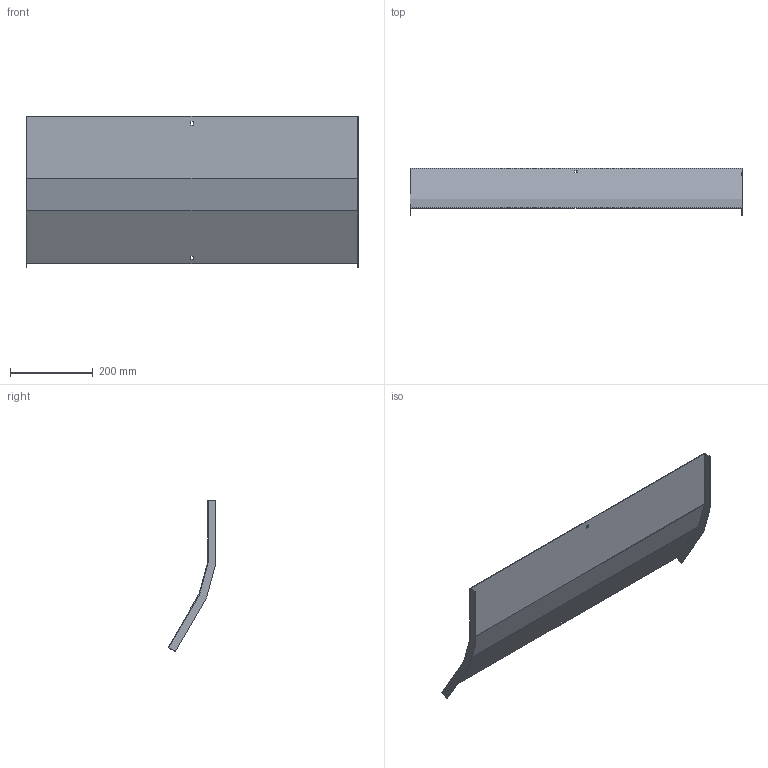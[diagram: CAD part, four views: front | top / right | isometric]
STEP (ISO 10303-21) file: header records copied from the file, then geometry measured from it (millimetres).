
FILE_DESCRIPTION (( 'STEP AP214' ), '1' );
FILE_NAME ('A2X32N3R800X.step', '2025-03-20T09:39:09', ( '' ), ( '' ), 'SwSTEP 2.0', 'SolidWorks 2023', '' );
FILE_SCHEMA (( 'AUTOMOTIVE_DESIGN' ));
Length unit declared in the file: millimetre
Products named in the file (1): A2X32N3R800X
Bounding box: 803 x 115.32 x 365.74 mm (x, y, z)
Volume: 477524.4 mm3; surface area: 640478.1 mm2
Topology: 1 solids, 1 shells, 26 faces, 72 edges, 48 vertices
Faces by surface type: plane 26
Entity records: 847 total; most frequent: CARTESIAN_POINT 147, ORIENTED_EDGE 144, DIRECTION 126, VECTOR 72, LINE 72, EDGE_CURVE 72, VERTEX_POINT 48, EDGE_LOOP 30
